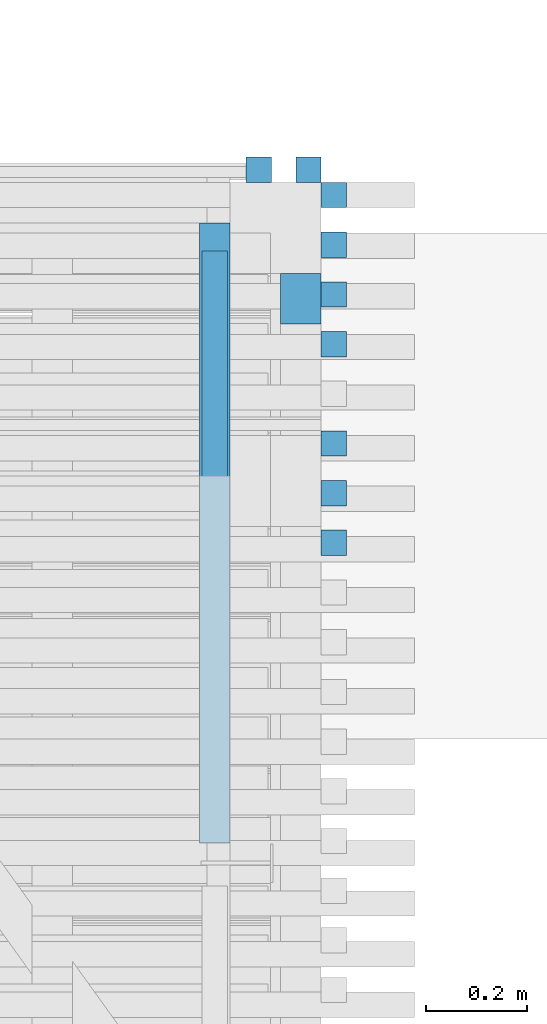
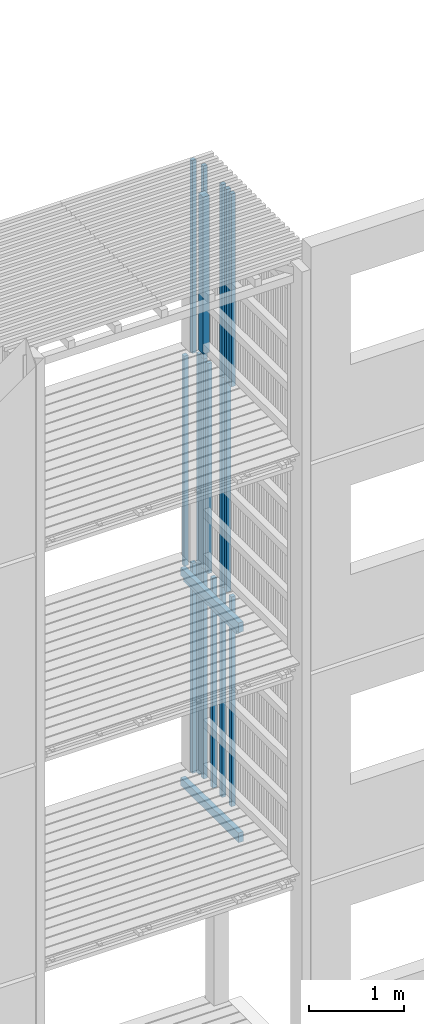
# One storey, part 108 of 182: 21 beams.
"""IFC2X3 building model written with IfcOpenShell, lengths in metres."""

from ifc_helpers import new_model, si_unit, frame, origin, place, context, project, spatial, faceted_brep, element, save


model = new_model("IFC2X3")

# Units and contexts
model_context = context("Model", 3, precision=1e-06, world=origin())
ifc_project = project(units=[si_unit("LENGTHUNIT", "METRE"), si_unit("PLANEANGLEUNIT", "RADIAN")], contexts=[model_context])

# Site, building, storey
site = spatial("IfcSite", under=ifc_project, CompositionType="ELEMENT")
building = spatial("IfcBuilding", under=site, CompositionType="ELEMENT")
storey = spatial("IfcBuildingStorey", under=building, Name="vs", CompositionType="ELEMENT", Elevation=-0.85)

# Beams
placement = place(None, origin())
beam_1_placement = place(placement, frame((46.37040135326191, 7.24507784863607, 2.575000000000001), z_axis=(-1.0, 0.0, 0.0), x_axis=(0.0, 0.0, 1.0)))
element("IfcBeam", 1, at=beam_1_placement, inside=storey, Name="Bardage", context=model_context, shape_type="Brep", body=[
    faceted_brep([(0.0, -0.025000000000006, 0.024999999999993), (0.0, 0.024999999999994, 0.024999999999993), (0.0, 0.024999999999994, -0.025000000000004), (0.0, -0.025000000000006, -0.025000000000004), (2.699961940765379, 0.024999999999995, -0.025000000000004), (2.699961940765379, 0.024999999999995, 0.024999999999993), (2.699961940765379, -0.025000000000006, 0.024999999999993), (2.699961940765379, -0.025000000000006, -0.025000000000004), (0.0, -0.025000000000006, -0.025000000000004), (0.0, 0.024999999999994, -0.025000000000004), (2.699961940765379, 0.024999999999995, -0.025000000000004), (2.699961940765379, -0.025000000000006, -0.025000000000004), (2.699961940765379, 0.024999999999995, -0.025000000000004), (0.0, 0.024999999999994, -0.025000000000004), (0.0, 0.024999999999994, 0.024999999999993), (2.699961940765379, 0.024999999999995, 0.024999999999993), (2.699961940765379, 0.024999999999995, 0.024999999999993), (0.0, 0.024999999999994, 0.024999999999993), (0.0, -0.025000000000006, 0.024999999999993), (2.699961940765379, -0.025000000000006, 0.024999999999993), (2.699961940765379, -0.025000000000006, 0.024999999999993), (0.0, -0.025000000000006, 0.024999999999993), (0.0, -0.025000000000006, -0.025000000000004), (2.699961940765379, -0.025000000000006, -0.025000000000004)], [[[0, 1, 2, 3]], [[4, 5, 6, 7]], [[8, 9, 10, 11]], [[12, 13, 14, 15]], [[16, 17, 18, 19]], [[20, 21, 22, 23]]]),
])
beam_2_placement = place(placement, frame((46.37040135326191, 7.146896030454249, 5.274999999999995), z_axis=(-1.0, 0.0, 0.0), x_axis=(0.0, 0.0, 1.0)))
element("IfcBeam", 2, at=beam_2_placement, inside=storey, Name="Bardage", context=model_context, shape_type="Brep", body=[
    faceted_brep([(1e-15, -0.025000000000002, 0.024999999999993), (1e-15, 0.024999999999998, 0.024999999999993), (1e-15, 0.024999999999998, -0.025000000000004), (1e-15, -0.025000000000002, -0.025000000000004), (2.699999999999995, -0.025000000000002, -0.025000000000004), (2.699999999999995, 0.025000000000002, -0.025000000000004), (2.699999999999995, 0.025000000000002, 0.024999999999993), (2.699999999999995, -0.025000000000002, 0.024999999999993), (1e-15, -0.025000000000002, 0.024999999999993), (1e-15, -0.025000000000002, -0.025000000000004), (2.699999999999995, -0.025000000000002, -0.025000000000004), (2.699999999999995, -0.025000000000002, 0.024999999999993), (2.699999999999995, -0.025000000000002, -0.025000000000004), (1e-15, -0.025000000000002, -0.025000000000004), (1e-15, 0.024999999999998, -0.025000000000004), (2.699999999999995, 0.025000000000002, -0.025000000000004), (2.699999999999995, 0.025000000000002, -0.025000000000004), (1e-15, 0.024999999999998, -0.025000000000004), (1e-15, 0.024999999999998, 0.024999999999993), (2.699999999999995, 0.025000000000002, 0.024999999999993), (2.699999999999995, 0.025000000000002, 0.024999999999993), (1e-15, 0.024999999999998, 0.024999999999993), (1e-15, -0.025000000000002, 0.024999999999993), (2.699999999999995, -0.025000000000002, 0.024999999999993)], [[[0, 1, 2, 3]], [[4, 5, 6, 7]], [[8, 9, 10, 11]], [[12, 13, 14, 15]], [[16, 17, 18, 19]], [[20, 21, 22, 23]]]),
])
beam_3_placement = place(placement, frame((46.37040135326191, 6.655986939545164, 5.274999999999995), z_axis=(-1.0, 0.0, 0.0), x_axis=(0.0, 0.0, 1.0)))
element("IfcBeam", 3, at=beam_3_placement, inside=storey, Name="Bardage", context=model_context, shape_type="Brep", body=[
    faceted_brep([(1e-15, -0.025000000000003, 0.024999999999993), (1e-15, 0.025000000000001, 0.024999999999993), (1e-15, 0.025000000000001, -0.025000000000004), (1e-15, -0.025000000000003, -0.025000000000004), (2.699999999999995, -0.025000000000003, -0.025000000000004), (2.699999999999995, 0.025000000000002, -0.025000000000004), (2.699999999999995, 0.025000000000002, 0.024999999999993), (2.699999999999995, -0.025000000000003, 0.024999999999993), (1e-15, -0.025000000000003, 0.024999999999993), (1e-15, -0.025000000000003, -0.025000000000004), (2.699999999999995, -0.025000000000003, -0.025000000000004), (2.699999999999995, -0.025000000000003, 0.024999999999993), (2.699999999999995, -0.025000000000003, -0.025000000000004), (1e-15, -0.025000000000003, -0.025000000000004), (1e-15, 0.025000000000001, -0.025000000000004), (2.699999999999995, 0.025000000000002, -0.025000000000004), (2.699999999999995, 0.025000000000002, -0.025000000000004), (1e-15, 0.025000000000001, -0.025000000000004), (1e-15, 0.025000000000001, 0.024999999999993), (2.699999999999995, 0.025000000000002, 0.024999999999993), (2.699999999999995, 0.025000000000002, 0.024999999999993), (1e-15, 0.025000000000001, 0.024999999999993), (1e-15, -0.025000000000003, 0.024999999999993), (2.699999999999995, -0.025000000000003, 0.024999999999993)], [[[0, 1, 2, 3]], [[4, 5, 6, 7]], [[8, 9, 10, 11]], [[12, 13, 14, 15]], [[16, 17, 18, 19]], [[20, 21, 22, 23]]]),
])
beam_4_placement = place(placement, frame((46.37040135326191, 6.754168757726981, 7.974999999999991), z_axis=(-1.0, 0.0, 0.0), x_axis=(0.0, 0.0, 1.0)))
element("IfcBeam", 4, at=beam_4_placement, inside=storey, Name="Bardage", context=model_context, shape_type="Brep", body=[
    faceted_brep([(2.479999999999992, -0.024999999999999, 0.024999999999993), (2.479999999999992, -0.024999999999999, -0.025000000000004), (2.479999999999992, 0.024999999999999, -0.025000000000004), (2.479999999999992, 0.024999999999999, 0.024999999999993), (0.0, 0.024999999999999, 0.024999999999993), (0.0, -0.024999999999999, 0.024999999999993), (2.479999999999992, -0.024999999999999, 0.024999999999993), (2.479999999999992, 0.024999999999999, 0.024999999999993), (0.0, -0.024999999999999, 0.024999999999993), (0.0, 0.024999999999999, 0.024999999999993), (0.0, 0.024999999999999, -0.025000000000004), (0.0, -0.024999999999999, -0.025000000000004), (0.0, 0.024999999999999, -0.025000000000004), (0.0, 0.024999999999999, 0.024999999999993), (2.479999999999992, 0.024999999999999, 0.024999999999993), (2.479999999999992, 0.024999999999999, -0.025000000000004), (0.0, -0.024999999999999, -0.025000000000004), (0.0, 0.024999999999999, -0.025000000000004), (2.479999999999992, 0.024999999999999, -0.025000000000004), (2.479999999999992, -0.024999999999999, -0.025000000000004), (2.479999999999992, -0.024999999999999, 0.024999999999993), (0.0, -0.024999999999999, 0.024999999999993), (0.0, -0.024999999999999, -0.025000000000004), (2.479999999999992, -0.024999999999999, -0.025000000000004)], [[[0, 1, 2, 3]], [[4, 5, 6, 7]], [[8, 9, 10, 11]], [[12, 13, 14, 15]], [[16, 17, 18, 19]], [[20, 21, 22, 23]]]),
])
beam_5_placement = place(placement, frame((46.37040135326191, 7.24507784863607, 5.274999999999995), z_axis=(-1.0, 0.0, 0.0), x_axis=(0.0, 0.0, 1.0)))
element("IfcBeam", 5, at=beam_5_placement, inside=storey, Name="Bardage", context=model_context, shape_type="Brep", body=[
    faceted_brep([(1e-15, -0.025000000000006, 0.024999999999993), (1e-15, 0.024999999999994, 0.024999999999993), (1e-15, 0.024999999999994, -0.025000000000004), (1e-15, -0.025000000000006, -0.025000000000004), (2.699999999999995, -0.025000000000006, -0.025000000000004), (2.699999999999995, 0.024999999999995, -0.025000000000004), (2.699999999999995, 0.024999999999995, 0.024999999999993), (2.699999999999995, -0.025000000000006, 0.024999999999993), (1e-15, -0.025000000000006, 0.024999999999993), (1e-15, -0.025000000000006, -0.025000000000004), (2.699999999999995, -0.025000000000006, -0.025000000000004), (2.699999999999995, -0.025000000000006, 0.024999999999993), (2.699999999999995, -0.025000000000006, -0.025000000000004), (1e-15, -0.025000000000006, -0.025000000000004), (1e-15, 0.024999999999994, -0.025000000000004), (2.699999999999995, 0.024999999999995, -0.025000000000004), (2.699999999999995, 0.024999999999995, -0.025000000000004), (1e-15, 0.024999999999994, -0.025000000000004), (1e-15, 0.024999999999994, 0.024999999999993), (2.699999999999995, 0.024999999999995, 0.024999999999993), (2.699999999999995, 0.024999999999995, 0.024999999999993), (1e-15, 0.024999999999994, 0.024999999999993), (1e-15, -0.025000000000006, 0.024999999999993), (2.699999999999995, -0.025000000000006, 0.024999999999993)], [[[0, 1, 2, 3]], [[4, 5, 6, 7]], [[8, 9, 10, 11]], [[12, 13, 14, 15]], [[16, 17, 18, 19]], [[20, 21, 22, 23]]]),
])
beam_6_placement = place(placement, frame((46.37040135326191, 6.557805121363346, 2.575000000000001), z_axis=(-1.0, 0.0, 0.0), x_axis=(0.0, 0.0, 1.0)))
element("IfcBeam", 6, at=beam_6_placement, inside=storey, Name="Bardage", context=model_context, shape_type="Brep", body=[
    faceted_brep([(0.0, -0.024999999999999, 0.024999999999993), (0.0, 0.025000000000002, 0.024999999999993), (0.0, 0.025000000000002, -0.025000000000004), (0.0, -0.024999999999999, -0.025000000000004), (2.699961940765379, 0.025000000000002, -0.025000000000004), (2.699961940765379, 0.025000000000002, 0.024999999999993), (2.699961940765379, -0.024999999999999, 0.024999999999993), (2.699961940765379, -0.024999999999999, -0.025000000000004), (0.0, -0.024999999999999, -0.025000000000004), (0.0, 0.025000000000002, -0.025000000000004), (2.699961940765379, 0.025000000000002, -0.025000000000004), (2.699961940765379, -0.024999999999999, -0.025000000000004), (2.699961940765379, 0.025000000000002, -0.025000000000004), (0.0, 0.025000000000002, -0.025000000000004), (0.0, 0.025000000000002, 0.024999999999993), (2.699961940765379, 0.025000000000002, 0.024999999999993), (2.699961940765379, 0.025000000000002, 0.024999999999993), (0.0, 0.025000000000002, 0.024999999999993), (0.0, -0.024999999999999, 0.024999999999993), (2.699961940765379, -0.024999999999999, 0.024999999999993), (2.699961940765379, -0.024999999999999, 0.024999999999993), (0.0, -0.024999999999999, 0.024999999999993), (0.0, -0.024999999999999, -0.025000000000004), (2.699961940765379, -0.024999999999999, -0.025000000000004)], [[[0, 1, 2, 3]], [[4, 5, 6, 7]], [[8, 9, 10, 11]], [[12, 13, 14, 15]], [[16, 17, 18, 19]], [[20, 21, 22, 23]]]),
])
beam_7_placement = place(placement, frame((46.37040135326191, 6.655986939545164, 7.974999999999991), z_axis=(-1.0, 0.0, 0.0), x_axis=(0.0, 0.0, 1.0)))
element("IfcBeam", 7, at=beam_7_placement, inside=storey, Name="Bardage", context=model_context, shape_type="Brep", body=[
    faceted_brep([(2.479999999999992, -0.025000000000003, 0.024999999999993), (2.479999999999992, -0.025000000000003, -0.025000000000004), (2.479999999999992, 0.025000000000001, -0.025000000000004), (2.479999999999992, 0.025000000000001, 0.024999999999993), (0.0, 0.025000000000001, 0.024999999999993), (0.0, -0.025000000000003, 0.024999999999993), (2.479999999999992, -0.025000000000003, 0.024999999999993), (2.479999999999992, 0.025000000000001, 0.024999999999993), (0.0, -0.025000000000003, 0.024999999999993), (0.0, 0.025000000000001, 0.024999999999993), (0.0, 0.025000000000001, -0.025000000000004), (0.0, -0.025000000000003, -0.025000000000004), (0.0, 0.025000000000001, -0.025000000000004), (0.0, 0.025000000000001, 0.024999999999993), (2.479999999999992, 0.025000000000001, 0.024999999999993), (2.479999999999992, 0.025000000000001, -0.025000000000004), (0.0, -0.025000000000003, -0.025000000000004), (0.0, 0.025000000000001, -0.025000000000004), (2.479999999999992, 0.025000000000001, -0.025000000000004), (2.479999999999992, -0.025000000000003, -0.025000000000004), (2.479999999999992, -0.025000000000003, 0.024999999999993), (0.0, -0.025000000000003, 0.024999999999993), (0.0, -0.025000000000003, -0.025000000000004), (2.479999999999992, -0.025000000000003, -0.025000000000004)], [[[0, 1, 2, 3]], [[4, 5, 6, 7]], [[8, 9, 10, 11]], [[12, 13, 14, 15]], [[16, 17, 18, 19]], [[20, 21, 22, 23]]]),
])
beam_8_placement = place(placement, frame((46.22221953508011, 7.295077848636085, 5.274999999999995), z_axis=(0.0, -1.0, 0.0), x_axis=(0.0, 0.0, 1.0)))
element("IfcBeam", 8, at=beam_8_placement, inside=storey, Name="Bardage", context=model_context, shape_type="Brep", body=[
    faceted_brep([(2.699999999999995, 0.025000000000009, 0.024999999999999), (2.699999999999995, -0.024999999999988, 0.025000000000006), (2.699999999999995, -0.025000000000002, -0.024999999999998), (2.699999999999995, 0.024999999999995, -0.025000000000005), (1e-15, 0.025000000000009, 0.024999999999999), (2.699999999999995, 0.025000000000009, 0.024999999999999), (2.699999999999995, 0.024999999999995, -0.025000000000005), (1e-15, 0.024999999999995, -0.025000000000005), (1e-15, -0.024999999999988, 0.025000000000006), (1e-15, 0.025000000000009, 0.024999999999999), (1e-15, 0.024999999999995, -0.025000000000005), (1e-15, -0.025000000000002, -0.024999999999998), (1e-15, 0.025000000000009, 0.024999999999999), (1e-15, -0.024999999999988, 0.025000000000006), (2.699999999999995, -0.024999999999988, 0.025000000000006), (2.699999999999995, 0.025000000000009, 0.024999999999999), (1e-15, -0.024999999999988, 0.025000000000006), (1e-15, -0.025000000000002, -0.024999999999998), (2.699999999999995, -0.025000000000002, -0.024999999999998), (2.699999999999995, -0.024999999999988, 0.025000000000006), (1e-15, -0.025000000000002, -0.024999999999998), (1e-15, 0.024999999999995, -0.025000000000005), (2.699999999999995, 0.024999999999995, -0.025000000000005), (2.699999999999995, -0.025000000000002, -0.024999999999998)], [[[0, 1, 2, 3]], [[4, 5, 6, 7]], [[8, 9, 10, 11]], [[12, 13, 14, 15]], [[16, 17, 18, 19]], [[20, 21, 22, 23]]]),
])
beam_9_placement = place(placement, frame((46.13540135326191, 5.965077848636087, 2.604249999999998), z_axis=(0.0, 0.0, 1.0), x_axis=(0.0, 1.0, 0.0)))
element("IfcBeam", 9, at=beam_9_placement, inside=storey, Name="Solive", context=model_context, shape_type="Brep", body=[
    faceted_brep([(0.0, -0.03, 0.06185), (0.0, -0.03, -0.06185), (1.225000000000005, -0.03, -0.06185), (1.225000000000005, -0.03, 0.03735), (0.0, -0.03, -0.06185), (0.0, -0.03, 0.06185), (0.0, 0.029999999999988, 0.06185), (0.0, 0.029999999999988, -0.06185), (1.225000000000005, -0.03, -0.06185), (0.0, -0.03, -0.06185), (0.0, 0.029999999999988, -0.06185), (1.225000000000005, 0.029999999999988, -0.06185), (1.225000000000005, 0.029999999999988, 0.03735), (1.225000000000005, 0.029999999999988, -0.06185), (0.0, 0.029999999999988, -0.06185), (0.0, 0.029999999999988, 0.06185), (1.225000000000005, -0.03, 0.03735), (1.225000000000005, -0.03, -0.06185), (1.225000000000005, 0.029999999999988, -0.06185), (1.225000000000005, 0.029999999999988, 0.03735), (1.225000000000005, -0.03, 0.03735), (1.225000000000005, 0.029999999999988, 0.03735), (0.0, 0.029999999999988, 0.06185), (0.0, -0.03, 0.06185)], [[[0, 1, 2, 3]], [[4, 5, 6, 7]], [[8, 9, 10, 11]], [[12, 13, 14, 15]], [[16, 17, 18, 19]], [[20, 21, 22, 23]]]),
])
beam_10_placement = place(placement, frame((46.37040135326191, 6.950532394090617, 2.575000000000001), z_axis=(-1.0, 0.0, 0.0), x_axis=(0.0, 0.0, 1.0)))
element("IfcBeam", 10, at=beam_10_placement, inside=storey, Name="Bardage", context=model_context, shape_type="Brep", body=[
    faceted_brep([(0.0, -0.025000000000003, 0.024999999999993), (0.0, 0.024999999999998, 0.024999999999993), (0.0, 0.024999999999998, -0.025000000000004), (0.0, -0.025000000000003, -0.025000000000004), (2.699961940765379, 0.024999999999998, -0.025000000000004), (2.699961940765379, 0.024999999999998, 0.024999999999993), (2.699961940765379, -0.025000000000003, 0.024999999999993), (2.699961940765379, -0.025000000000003, -0.025000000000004), (0.0, -0.025000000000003, -0.025000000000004), (0.0, 0.024999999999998, -0.025000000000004), (2.699961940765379, 0.024999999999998, -0.025000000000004), (2.699961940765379, -0.025000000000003, -0.025000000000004), (2.699961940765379, 0.024999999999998, -0.025000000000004), (0.0, 0.024999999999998, -0.025000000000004), (0.0, 0.024999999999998, 0.024999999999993), (2.699961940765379, 0.024999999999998, 0.024999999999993), (2.699961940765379, 0.024999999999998, 0.024999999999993), (0.0, 0.024999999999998, 0.024999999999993), (0.0, -0.025000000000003, 0.024999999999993), (2.699961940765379, -0.025000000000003, 0.024999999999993), (2.699961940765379, -0.025000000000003, 0.024999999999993), (0.0, -0.025000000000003, 0.024999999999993), (0.0, -0.025000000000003, -0.025000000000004), (2.699961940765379, -0.025000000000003, -0.025000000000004)], [[[0, 1, 2, 3]], [[4, 5, 6, 7]], [[8, 9, 10, 11]], [[12, 13, 14, 15]], [[16, 17, 18, 19]], [[20, 21, 22, 23]]]),
])
beam_11_placement = place(placement, frame((46.30540135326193, 7.040077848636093, 8.146999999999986), z_axis=(0.0, -1.0, 0.0), x_axis=(0.0, 0.0, 1.0)))
element("IfcBeam", 11, at=beam_11_placement, inside=storey, Name="Support bardage", context=model_context, shape_type="Brep", body=[
    faceted_brep([(2.017999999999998, -0.039999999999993, -0.05), (2.017999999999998, 0.04000000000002, -0.05), (2.017999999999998, 0.04000000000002, 0.050000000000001), (2.017999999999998, -0.039999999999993, 0.050000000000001), (1e-15, -0.039999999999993, 0.050000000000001), (1e-15, 0.04000000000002, 0.050000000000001), (1e-15, 0.04000000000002, -0.05), (1e-15, -0.039999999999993, -0.05), (1e-15, -0.039999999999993, 0.050000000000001), (1e-15, -0.039999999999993, -0.05), (2.017999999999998, -0.039999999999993, -0.05), (2.017999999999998, -0.039999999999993, 0.050000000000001), (1e-15, 0.04000000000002, 0.050000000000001), (1e-15, -0.039999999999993, 0.050000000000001), (2.017999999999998, -0.039999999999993, 0.050000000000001), (2.017999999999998, 0.04000000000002, 0.050000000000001), (1e-15, 0.04000000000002, -0.05), (1e-15, 0.04000000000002, 0.050000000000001), (2.017999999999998, 0.04000000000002, 0.050000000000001), (2.017999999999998, 0.04000000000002, -0.05), (1e-15, -0.039999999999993, -0.05), (1e-15, 0.04000000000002, -0.05), (2.017999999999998, 0.04000000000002, -0.05), (2.017999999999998, -0.039999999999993, -0.05)], [[[0, 1, 2, 3]], [[4, 5, 6, 7]], [[8, 9, 10, 11]], [[12, 13, 14, 15]], [[16, 17, 18, 19]], [[20, 21, 22, 23]]]),
])
beam_12_placement = place(placement, frame((46.37040135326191, 7.146896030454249, 2.575000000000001), z_axis=(-1.0, 0.0, 0.0), x_axis=(0.0, 0.0, 1.0)))
element("IfcBeam", 12, at=beam_12_placement, inside=storey, Name="Bardage", context=model_context, shape_type="Brep", body=[
    faceted_brep([(0.0, -0.025000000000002, 0.024999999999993), (0.0, 0.024999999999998, 0.024999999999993), (0.0, 0.024999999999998, -0.025000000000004), (0.0, -0.025000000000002, -0.025000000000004), (2.699961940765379, 0.025000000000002, -0.025000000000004), (2.699961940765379, 0.025000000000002, 0.024999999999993), (2.699961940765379, -0.025000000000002, 0.024999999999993), (2.699961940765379, -0.025000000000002, -0.025000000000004), (0.0, -0.025000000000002, -0.025000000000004), (0.0, 0.024999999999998, -0.025000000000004), (2.699961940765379, 0.025000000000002, -0.025000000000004), (2.699961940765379, -0.025000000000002, -0.025000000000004), (2.699961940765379, 0.025000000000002, -0.025000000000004), (0.0, 0.024999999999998, -0.025000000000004), (0.0, 0.024999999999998, 0.024999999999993), (2.699961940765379, 0.025000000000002, 0.024999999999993), (2.699961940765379, 0.025000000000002, 0.024999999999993), (0.0, 0.024999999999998, 0.024999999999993), (0.0, -0.025000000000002, 0.024999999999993), (2.699961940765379, -0.025000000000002, 0.024999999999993), (2.699961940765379, -0.025000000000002, 0.024999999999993), (0.0, -0.025000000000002, 0.024999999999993), (0.0, -0.025000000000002, -0.025000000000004), (2.699961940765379, -0.025000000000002, -0.025000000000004)], [[[0, 1, 2, 3]], [[4, 5, 6, 7]], [[8, 9, 10, 11]], [[12, 13, 14, 15]], [[16, 17, 18, 19]], [[20, 21, 22, 23]]]),
])
beam_13_placement = place(placement, frame((46.37040135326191, 7.048714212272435, 5.274999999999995), z_axis=(-1.0, 0.0, 0.0), x_axis=(0.0, 0.0, 1.0)))
element("IfcBeam", 13, at=beam_13_placement, inside=storey, Name="Bardage", context=model_context, shape_type="Brep", body=[
    faceted_brep([(1e-15, -0.025000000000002, 0.024999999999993), (1e-15, 0.024999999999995, 0.024999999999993), (1e-15, 0.024999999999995, -0.025000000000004), (1e-15, -0.025000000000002, -0.025000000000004), (2.699999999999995, -0.025000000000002, -0.025000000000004), (2.699999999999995, 0.024999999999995, -0.025000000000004), (2.699999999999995, 0.024999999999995, 0.024999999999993), (2.699999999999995, -0.025000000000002, 0.024999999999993), (1e-15, -0.025000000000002, 0.024999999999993), (1e-15, -0.025000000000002, -0.025000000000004), (2.699999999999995, -0.025000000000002, -0.025000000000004), (2.699999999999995, -0.025000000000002, 0.024999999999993), (2.699999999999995, -0.025000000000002, -0.025000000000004), (1e-15, -0.025000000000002, -0.025000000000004), (1e-15, 0.024999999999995, -0.025000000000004), (2.699999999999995, 0.024999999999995, -0.025000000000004), (2.699999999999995, 0.024999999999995, -0.025000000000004), (1e-15, 0.024999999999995, -0.025000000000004), (1e-15, 0.024999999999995, 0.024999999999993), (2.699999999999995, 0.024999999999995, 0.024999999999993), (2.699999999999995, 0.024999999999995, 0.024999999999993), (1e-15, 0.024999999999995, 0.024999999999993), (1e-15, -0.025000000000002, 0.024999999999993), (2.699999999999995, -0.025000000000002, 0.024999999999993)], [[[0, 1, 2, 3]], [[4, 5, 6, 7]], [[8, 9, 10, 11]], [[12, 13, 14, 15]], [[16, 17, 18, 19]], [[20, 21, 22, 23]]]),
])
beam_14_placement = place(placement, frame((46.37040135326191, 6.557805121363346, 7.974999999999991), z_axis=(-1.0, 0.0, 0.0), x_axis=(0.0, 0.0, 1.0)))
element("IfcBeam", 14, at=beam_14_placement, inside=storey, Name="Bardage", context=model_context, shape_type="Brep", body=[
    faceted_brep([(2.479999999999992, -0.024999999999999, 0.024999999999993), (2.479999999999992, -0.024999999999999, -0.025000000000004), (2.479999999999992, 0.025000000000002, -0.025000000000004), (2.479999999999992, 0.025000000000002, 0.024999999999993), (0.0, 0.024999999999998, 0.024999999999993), (0.0, -0.024999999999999, 0.024999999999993), (2.479999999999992, -0.024999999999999, 0.024999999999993), (2.479999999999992, 0.025000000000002, 0.024999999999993), (0.0, -0.024999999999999, 0.024999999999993), (0.0, 0.024999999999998, 0.024999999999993), (0.0, 0.024999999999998, -0.025000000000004), (0.0, -0.024999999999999, -0.025000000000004), (0.0, 0.024999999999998, -0.025000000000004), (0.0, 0.024999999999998, 0.024999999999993), (2.479999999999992, 0.025000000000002, 0.024999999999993), (2.479999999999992, 0.025000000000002, -0.025000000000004), (0.0, -0.024999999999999, -0.025000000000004), (0.0, 0.024999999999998, -0.025000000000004), (2.479999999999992, 0.025000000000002, -0.025000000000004), (2.479999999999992, -0.024999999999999, -0.025000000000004), (2.479999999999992, -0.024999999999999, 0.024999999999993), (0.0, -0.024999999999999, 0.024999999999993), (0.0, -0.024999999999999, -0.025000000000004), (2.479999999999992, -0.024999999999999, -0.025000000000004)], [[[0, 1, 2, 3]], [[4, 5, 6, 7]], [[8, 9, 10, 11]], [[12, 13, 14, 15]], [[16, 17, 18, 19]], [[20, 21, 22, 23]]]),
])
beam_15_placement = place(placement, frame((46.320401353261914, 7.295077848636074, 2.575000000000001), z_axis=(0.0, -1.0, 0.0), x_axis=(0.0, 0.0, 1.0)))
element("IfcBeam", 15, at=beam_15_placement, inside=storey, Name="Bardage", context=model_context, shape_type="Brep", body=[
    faceted_brep([(2.699961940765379, -0.025000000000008, 0.025000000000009), (2.699961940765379, -0.025000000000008, -0.024999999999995), (2.699961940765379, 0.02499999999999, -0.025000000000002), (2.699961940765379, 0.025000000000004, 0.025000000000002), (0.0, -0.025000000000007, 0.025000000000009), (2.699961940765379, -0.025000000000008, 0.025000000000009), (2.699961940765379, 0.025000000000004, 0.025000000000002), (0.0, 0.025000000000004, 0.025000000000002), (0.0, -0.025000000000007, 0.025000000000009), (0.0, 0.025000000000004, 0.025000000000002), (0.0, 0.02499999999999, -0.025000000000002), (0.0, -0.025000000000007, -0.024999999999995), (0.0, -0.025000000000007, 0.025000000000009), (0.0, -0.025000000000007, -0.024999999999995), (2.699961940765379, -0.025000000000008, -0.024999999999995), (2.699961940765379, -0.025000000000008, 0.025000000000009), (0.0, -0.025000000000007, -0.024999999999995), (0.0, 0.02499999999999, -0.025000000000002), (2.699961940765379, 0.02499999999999, -0.025000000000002), (2.699961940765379, -0.025000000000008, -0.024999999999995), (0.0, 0.02499999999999, -0.025000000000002), (0.0, 0.025000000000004, 0.025000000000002), (2.699961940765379, 0.025000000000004, 0.025000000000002), (2.699961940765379, 0.02499999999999, -0.025000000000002)], [[[0, 1, 2, 3]], [[4, 5, 6, 7]], [[8, 9, 10, 11]], [[12, 13, 14, 15]], [[16, 17, 18, 19]], [[20, 21, 22, 23]]]),
])
beam_16_placement = place(placement, frame((46.13540135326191, 7.135077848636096, 5.217399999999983), z_axis=(0.0, 0.0, 1.0), x_axis=(0.0, -1.0, 0.0)))
element("IfcBeam", 16, at=beam_16_placement, inside=storey, Name="Calage", context=model_context, shape_type="Brep", body=[
    faceted_brep([(0.0, 0.025000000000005, -0.025), (0.0, -0.024999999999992, -0.025), (0.0, -0.024999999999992, 0.024999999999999), (0.0, 0.025000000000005, 0.024999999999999), (1.115000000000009, -0.024999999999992, 0.024999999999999), (1.115000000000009, -0.024999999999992, -0.025), (1.115000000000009, 0.025000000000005, -0.025), (1.115000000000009, 0.025000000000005, 0.024999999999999), (0.0, -0.024999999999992, 0.024999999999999), (0.0, -0.024999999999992, -0.025), (1.115000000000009, -0.024999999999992, -0.025), (1.115000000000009, -0.024999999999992, 0.024999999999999), (1.115000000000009, -0.024999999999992, -0.025), (0.0, -0.024999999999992, -0.025), (0.0, 0.025000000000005, -0.025), (1.115000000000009, 0.025000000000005, -0.025), (1.115000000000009, 0.025000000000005, -0.025), (0.0, 0.025000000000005, -0.025), (0.0, 0.025000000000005, 0.024999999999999), (1.115000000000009, 0.025000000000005, 0.024999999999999), (1.115000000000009, 0.025000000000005, 0.024999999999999), (0.0, 0.025000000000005, 0.024999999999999), (0.0, -0.024999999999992, 0.024999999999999), (1.115000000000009, -0.024999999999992, 0.024999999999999)], [[[0, 1, 2, 3]], [[4, 5, 6, 7]], [[8, 9, 10, 11]], [[12, 13, 14, 15]], [[16, 17, 18, 19]], [[20, 21, 22, 23]]]),
])
beam_17_placement = place(placement, frame((46.37040135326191, 7.146896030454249, 7.974999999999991), z_axis=(-1.0, 0.0, 0.0), x_axis=(0.0, 0.0, 1.0)))
element("IfcBeam", 17, at=beam_17_placement, inside=storey, Name="Bardage", context=model_context, shape_type="Brep", body=[
    faceted_brep([(2.479999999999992, -0.025000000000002, 0.024999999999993), (2.479999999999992, -0.025000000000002, -0.025000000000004), (2.479999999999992, 0.025000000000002, -0.025000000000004), (2.479999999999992, 0.025000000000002, 0.024999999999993), (0.0, 0.024999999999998, 0.024999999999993), (0.0, -0.025000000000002, 0.024999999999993), (2.479999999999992, -0.025000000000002, 0.024999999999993), (2.479999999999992, 0.025000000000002, 0.024999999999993), (0.0, -0.025000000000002, 0.024999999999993), (0.0, 0.024999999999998, 0.024999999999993), (0.0, 0.024999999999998, -0.025000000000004), (0.0, -0.025000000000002, -0.025000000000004), (0.0, 0.024999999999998, -0.025000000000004), (0.0, 0.024999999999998, 0.024999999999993), (2.479999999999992, 0.025000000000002, 0.024999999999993), (2.479999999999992, 0.025000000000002, -0.025000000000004), (0.0, -0.025000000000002, -0.025000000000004), (0.0, 0.024999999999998, -0.025000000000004), (2.479999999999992, 0.025000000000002, -0.025000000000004), (2.479999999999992, -0.025000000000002, -0.025000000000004), (2.479999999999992, -0.025000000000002, 0.024999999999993), (0.0, -0.025000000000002, 0.024999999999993), (0.0, -0.025000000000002, -0.025000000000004), (2.479999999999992, -0.025000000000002, -0.025000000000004)], [[[0, 1, 2, 3]], [[4, 5, 6, 7]], [[8, 9, 10, 11]], [[12, 13, 14, 15]], [[16, 17, 18, 19]], [[20, 21, 22, 23]]]),
])
beam_18_placement = place(placement, frame((46.13540135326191, 5.965077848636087, 5.304249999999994), z_axis=(0.0, 0.0, 1.0), x_axis=(0.0, 1.0, 0.0)))
element("IfcBeam", 18, at=beam_18_placement, inside=storey, Name="Solive", context=model_context, shape_type="Brep", body=[
    faceted_brep([(0.0, -0.03, 0.061850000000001), (0.0, -0.03, -0.061849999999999), (1.225000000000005, -0.03, -0.061849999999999), (1.225000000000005, -0.03, 0.03735), (0.0, -0.03, -0.061849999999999), (0.0, -0.03, 0.061850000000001), (0.0, 0.029999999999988, 0.06185), (0.0, 0.029999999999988, -0.061849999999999), (1.225000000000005, -0.03, -0.061849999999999), (0.0, -0.03, -0.061849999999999), (0.0, 0.029999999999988, -0.061849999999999), (1.225000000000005, 0.029999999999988, -0.061849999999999), (1.225000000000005, 0.029999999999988, 0.03735), (1.225000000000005, 0.029999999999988, -0.061849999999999), (0.0, 0.029999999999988, -0.061849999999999), (0.0, 0.029999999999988, 0.06185), (1.225000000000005, -0.03, 0.03735), (1.225000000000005, -0.03, -0.061849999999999), (1.225000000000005, 0.029999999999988, -0.061849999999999), (1.225000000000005, 0.029999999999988, 0.03735), (1.225000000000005, -0.03, 0.03735), (1.225000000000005, 0.029999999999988, 0.03735), (0.0, 0.029999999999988, 0.06185), (0.0, -0.03, 0.061850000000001)], [[[0, 1, 2, 3]], [[4, 5, 6, 7]], [[8, 9, 10, 11]], [[12, 13, 14, 15]], [[16, 17, 18, 19]], [[20, 21, 22, 23]]]),
])
beam_19_placement = place(placement, frame((46.320401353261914, 7.295077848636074, 7.974999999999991), z_axis=(0.0, -1.0, 0.0), x_axis=(0.0, 0.0, 1.0)))
element("IfcBeam", 19, at=beam_19_placement, inside=storey, Name="Bardage", context=model_context, shape_type="Brep", body=[
    faceted_brep([(0.0, -0.025000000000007, 0.025000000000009), (0.0, 0.025000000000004, 0.025000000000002), (0.0, 0.02499999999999, -0.025000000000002), (0.0, -0.025000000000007, -0.024999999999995), (2.479999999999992, 0.02499999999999, -0.024999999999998), (2.479999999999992, 0.025000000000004, 0.024999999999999), (2.479999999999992, -0.025000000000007, 0.025000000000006), (2.479999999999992, -0.025000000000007, -0.024999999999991), (0.0, 0.025000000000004, 0.025000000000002), (0.0, -0.025000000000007, 0.025000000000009), (2.479999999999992, -0.025000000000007, 0.025000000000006), (2.479999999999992, 0.025000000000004, 0.024999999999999), (0.0, 0.02499999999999, -0.025000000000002), (0.0, 0.025000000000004, 0.025000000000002), (2.479999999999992, 0.025000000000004, 0.024999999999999), (2.479999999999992, 0.02499999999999, -0.024999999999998), (0.0, -0.025000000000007, -0.024999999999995), (0.0, 0.02499999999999, -0.025000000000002), (2.479999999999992, 0.02499999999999, -0.024999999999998), (2.479999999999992, -0.025000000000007, -0.024999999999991), (2.479999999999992, -0.025000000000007, 0.025000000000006), (0.0, -0.025000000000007, 0.025000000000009), (0.0, -0.025000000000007, -0.024999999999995), (2.479999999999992, -0.025000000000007, -0.024999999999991)], [[[0, 1, 2, 3]], [[4, 5, 6, 7]], [[8, 9, 10, 11]], [[12, 13, 14, 15]], [[16, 17, 18, 19]], [[20, 21, 22, 23]]]),
])
beam_20_placement = place(placement, frame((46.37040135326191, 6.754168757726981, 2.575000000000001), z_axis=(-1.0, 0.0, 0.0), x_axis=(0.0, 0.0, 1.0)))
element("IfcBeam", 20, at=beam_20_placement, inside=storey, Name="Bardage", context=model_context, shape_type="Brep", body=[
    faceted_brep([(0.0, -0.024999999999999, 0.024999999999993), (0.0, 0.024999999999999, 0.024999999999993), (0.0, 0.024999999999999, -0.025000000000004), (0.0, -0.024999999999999, -0.025000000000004), (2.699961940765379, 0.024999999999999, -0.025000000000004), (2.699961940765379, 0.024999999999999, 0.024999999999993), (2.699961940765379, -0.024999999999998, 0.024999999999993), (2.699961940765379, -0.024999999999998, -0.025000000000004), (0.0, -0.024999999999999, -0.025000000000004), (0.0, 0.024999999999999, -0.025000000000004), (2.699961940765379, 0.024999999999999, -0.025000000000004), (2.699961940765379, -0.024999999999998, -0.025000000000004), (2.699961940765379, 0.024999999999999, -0.025000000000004), (0.0, 0.024999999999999, -0.025000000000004), (0.0, 0.024999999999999, 0.024999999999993), (2.699961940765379, 0.024999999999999, 0.024999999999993), (2.699961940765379, 0.024999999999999, 0.024999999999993), (0.0, 0.024999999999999, 0.024999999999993), (0.0, -0.024999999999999, 0.024999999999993), (2.699961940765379, -0.024999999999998, 0.024999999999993), (2.699961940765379, -0.024999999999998, 0.024999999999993), (0.0, -0.024999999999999, 0.024999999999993), (0.0, -0.024999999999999, -0.025000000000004), (2.699961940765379, -0.024999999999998, -0.025000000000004)], [[[0, 1, 2, 3]], [[4, 5, 6, 7]], [[8, 9, 10, 11]], [[12, 13, 14, 15]], [[16, 17, 18, 19]], [[20, 21, 22, 23]]]),
])
beam_21_placement = place(placement, frame((46.37040135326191, 6.754168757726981, 5.274999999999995), z_axis=(-1.0, 0.0, 0.0), x_axis=(0.0, 0.0, 1.0)))
element("IfcBeam", 21, at=beam_21_placement, inside=storey, Name="Bardage", context=model_context, shape_type="Brep", body=[
    faceted_brep([(1e-15, -0.024999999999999, 0.024999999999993), (1e-15, 0.024999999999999, 0.024999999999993), (1e-15, 0.024999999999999, -0.025000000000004), (1e-15, -0.024999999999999, -0.025000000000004), (2.699999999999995, -0.024999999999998, -0.025000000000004), (2.699999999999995, 0.024999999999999, -0.025000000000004), (2.699999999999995, 0.024999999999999, 0.024999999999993), (2.699999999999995, -0.024999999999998, 0.024999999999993), (1e-15, -0.024999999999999, 0.024999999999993), (1e-15, -0.024999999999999, -0.025000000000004), (2.699999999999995, -0.024999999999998, -0.025000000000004), (2.699999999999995, -0.024999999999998, 0.024999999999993), (2.699999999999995, -0.024999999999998, -0.025000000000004), (1e-15, -0.024999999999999, -0.025000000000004), (1e-15, 0.024999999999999, -0.025000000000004), (2.699999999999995, 0.024999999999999, -0.025000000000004), (2.699999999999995, 0.024999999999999, -0.025000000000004), (1e-15, 0.024999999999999, -0.025000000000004), (1e-15, 0.024999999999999, 0.024999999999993), (2.699999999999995, 0.024999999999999, 0.024999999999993), (2.699999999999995, 0.024999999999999, 0.024999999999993), (1e-15, 0.024999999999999, 0.024999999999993), (1e-15, -0.024999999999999, 0.024999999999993), (2.699999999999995, -0.024999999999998, 0.024999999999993)], [[[0, 1, 2, 3]], [[4, 5, 6, 7]], [[8, 9, 10, 11]], [[12, 13, 14, 15]], [[16, 17, 18, 19]], [[20, 21, 22, 23]]]),
])

save(model, "model.ifc")
